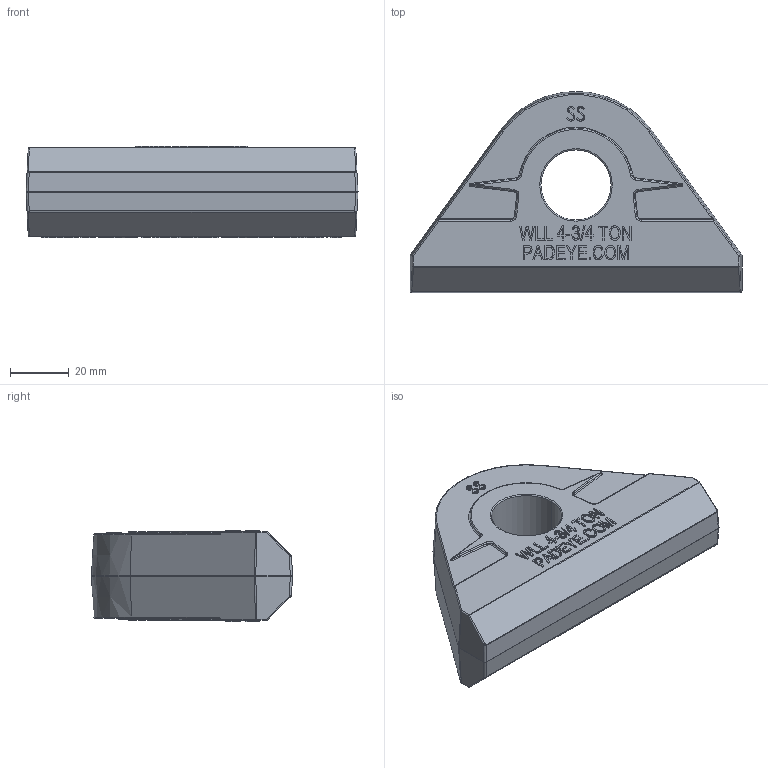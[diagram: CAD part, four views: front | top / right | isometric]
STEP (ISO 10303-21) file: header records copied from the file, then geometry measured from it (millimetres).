
FILE_DESCRIPTION (( 'STEP AP214' ), '1' );
FILE_NAME ('SSE.STEP', '2024-02-12T17:22:39', ( '' ), ( '' ), 'SwSTEP 2.0', 'SolidWorks 2018', '' );
FILE_SCHEMA (( 'AUTOMOTIVE_DESIGN' ));
Length unit declared in the file: inch
Products named in the file (1): SSE
Bounding box: 112.71 x 68.26 x 30.92 mm (x, y, z)
Volume: 135826.9 mm3; surface area: 20117.8 mm2
Topology: 1 solids, 1 shells, 1269 faces, 3347 edges, 2171 vertices
Faces by surface type: plane 795, bspline 314, cylinder 97, torus 46, sphere 15, cone 2
Entity records: 52258 total; most frequent: CARTESIAN_POINT 22928, ORIENTED_EDGE 6666, DIRECTION 4872, EDGE_CURVE 3333, LINE 2450, VECTOR 2450, VERTEX_POINT 2171, EDGE_LOOP 1376
